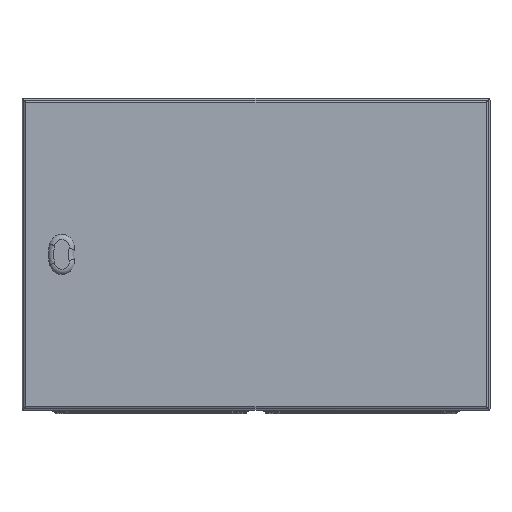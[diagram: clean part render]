
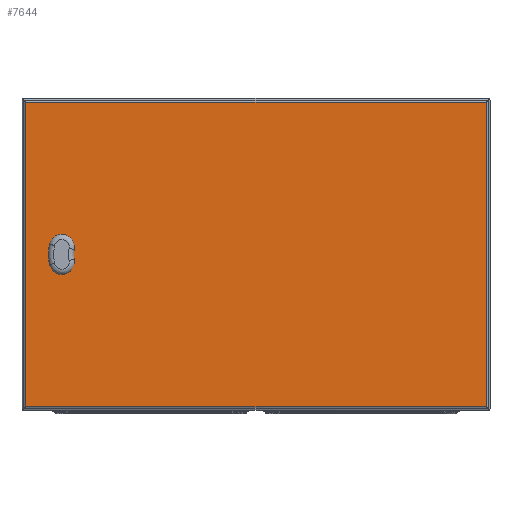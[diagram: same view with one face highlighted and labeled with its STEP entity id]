
A CAD part, front view. The second image highlights one B-rep face of the part: STEP entity #7644.
In plain terms, the highlighted planar face has unit normal (0, -1, 0).
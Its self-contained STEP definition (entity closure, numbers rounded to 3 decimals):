
#566=LINE('',#12418,#1042);
#567=LINE('',#12421,#1043);
#568=LINE('',#12423,#1044);
#569=LINE('',#12425,#1045);
#1042=VECTOR('',#9949,1000.);
#1043=VECTOR('',#9950,1000.);
#1044=VECTOR('',#9951,1000.);
#1045=VECTOR('',#9952,1000.);
#2012=ORIENTED_EDGE('',*,*,#3714,.F.);
#2013=ORIENTED_EDGE('',*,*,#3715,.T.);
#2014=ORIENTED_EDGE('',*,*,#3716,.T.);
#2015=ORIENTED_EDGE('',*,*,#3717,.T.);
#2016=ORIENTED_EDGE('',*,*,#3718,.F.);
#2017=ORIENTED_EDGE('',*,*,#3719,.F.);
#2018=ORIENTED_EDGE('',*,*,#3720,.T.);
#2019=ORIENTED_EDGE('',*,*,#3721,.T.);
#3714=EDGE_CURVE('',#4628,#4629,#5232,.T.);
#3715=EDGE_CURVE('',#4628,#4630,#5233,.T.);
#3716=EDGE_CURVE('',#4630,#4631,#5234,.T.);
#3717=EDGE_CURVE('',#4631,#4629,#5235,.T.);
#3718=EDGE_CURVE('',#4632,#4633,#566,.F.);
#3719=EDGE_CURVE('',#4634,#4632,#567,.T.);
#3720=EDGE_CURVE('',#4634,#4635,#568,.F.);
#3721=EDGE_CURVE('',#4635,#4633,#569,.T.);
#4628=VERTEX_POINT('',#12411);
#4629=VERTEX_POINT('',#12412);
#4630=VERTEX_POINT('',#12414);
#4631=VERTEX_POINT('',#12416);
#4632=VERTEX_POINT('',#12419);
#4633=VERTEX_POINT('',#12420);
#4634=VERTEX_POINT('',#12422);
#4635=VERTEX_POINT('',#12424);
#5232=CIRCLE('',#8376,34.3);
#5233=CIRCLE('',#8377,16.2);
#5234=CIRCLE('',#8378,60.7);
#5235=CIRCLE('',#8379,16.2);
#5850=EDGE_LOOP('',(#2012,#2013,#2014,#2015));
#5851=EDGE_LOOP('',(#2016,#2017,#2018,#2019));
#6708=FACE_BOUND('',#5850,.T.);
#6709=FACE_BOUND('',#5851,.T.);
#7352=PLANE('',#8375);
#7644=ADVANCED_FACE('',(#6708,#6709),#7352,.F.);
#8375=AXIS2_PLACEMENT_3D('',#12409,#9939,#9940);
#8376=AXIS2_PLACEMENT_3D('',#12410,#9941,#9942);
#8377=AXIS2_PLACEMENT_3D('',#12413,#9943,#9944);
#8378=AXIS2_PLACEMENT_3D('',#12415,#9945,#9946);
#8379=AXIS2_PLACEMENT_3D('',#12417,#9947,#9948);
#9939=DIRECTION('',(0.,1.,0.));
#9940=DIRECTION('',(0.,0.,1.));
#9941=DIRECTION('',(0.,1.,0.));
#9942=DIRECTION('',(1.,0.,0.));
#9943=DIRECTION('',(0.,1.,0.));
#9944=DIRECTION('',(1.,0.,0.));
#9945=DIRECTION('',(0.,1.,0.));
#9946=DIRECTION('',(1.,0.,0.));
#9947=DIRECTION('',(0.,1.,0.));
#9948=DIRECTION('',(1.,0.,0.));
#9949=DIRECTION('',(0.,0.,-1.));
#9950=DIRECTION('',(-1.,0.,0.));
#9951=DIRECTION('',(0.,0.,-1.));
#9952=DIRECTION('',(-1.,0.,0.));
#12409=CARTESIAN_POINT('',(0.,-16.5,0.));
#12410=CARTESIAN_POINT('',(-199.402,-16.5,0.));
#12411=CARTESIAN_POINT('',(-233.089,-16.5,-6.452));
#12412=CARTESIAN_POINT('',(-233.089,-16.5,6.452));
#12413=CARTESIAN_POINT('',(-249.,-16.5,-9.5));
#12414=CARTESIAN_POINT('',(-264.827,-16.5,-12.958));
#12415=CARTESIAN_POINT('',(-205.526,-16.5,0.));
#12416=CARTESIAN_POINT('',(-264.827,-16.5,12.958));
#12417=CARTESIAN_POINT('',(-249.,-16.5,9.5));
#12418=CARTESIAN_POINT('',(-295.,-16.5,200.));
#12419=CARTESIAN_POINT('',(-295.,-16.5,-195.));
#12420=CARTESIAN_POINT('',(-295.,-16.5,195.));
#12421=CARTESIAN_POINT('',(300.,-16.5,-195.));
#12422=CARTESIAN_POINT('',(295.,-16.5,-195.));
#12423=CARTESIAN_POINT('',(295.,-16.5,200.));
#12424=CARTESIAN_POINT('',(295.,-16.5,195.));
#12425=CARTESIAN_POINT('',(300.,-16.5,195.));
